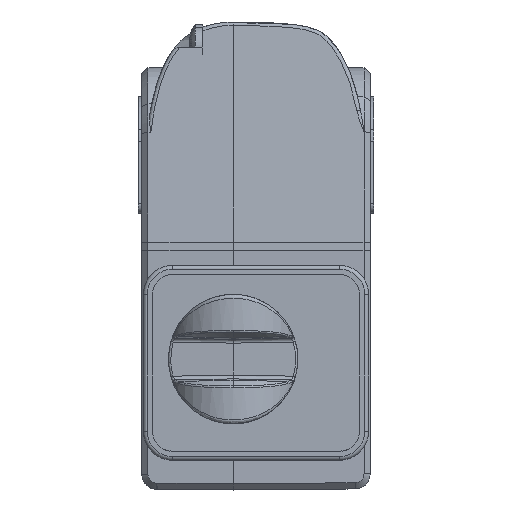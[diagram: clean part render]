
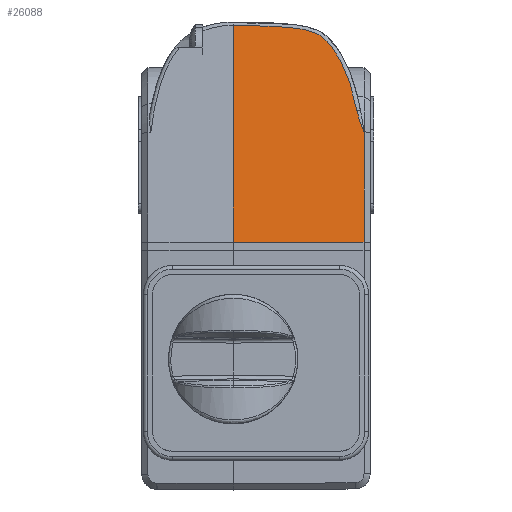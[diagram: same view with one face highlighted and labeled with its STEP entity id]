
A CAD part, left-side view. The second image highlights one B-rep face of the part: STEP entity #26088.
In plain terms, the highlighted planar face has unit normal (-0.994, -0.009, 0.106).
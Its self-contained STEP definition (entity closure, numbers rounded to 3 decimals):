
#470 = CARTESIAN_POINT ( 'NONE',  ( -49.767, -11.677, 22.192 ) ) ;
#571 = CARTESIAN_POINT ( 'NONE',  ( -49.701, -0.953, 23.697 ) ) ;
#863 = CARTESIAN_POINT ( 'NONE',  ( -49.693, -1.905, 23.686 ) ) ;
#1160 = CARTESIAN_POINT ( 'NONE',  ( -52.744, 0., -4.773 ) ) ;
#2674 = AXIS2_PLACEMENT_3D ( 'NONE', #20165, #13217, #19784 ) ;
#2684 = CARTESIAN_POINT ( 'NONE',  ( -49.754, -11.483, 22.328 ) ) ;
#2745 = CARTESIAN_POINT ( 'NONE',  ( -51.001, -17.01, 10.179 ) ) ;
#2784 = CARTESIAN_POINT ( 'NONE',  ( -49.671, -6.663, 23.504 ) ) ;
#2829 = LINE ( 'NONE', #19273, #22110 ) ;
#3068 = CARTESIAN_POINT ( 'NONE',  ( -49.796, -12.044, 21.888 ) ) ;
#3581 = EDGE_CURVE ( 'NONE', #15998, #5245, #22213, .T. ) ;
#4456 = LINE ( 'NONE', #10931, #27221 ) ;
#4561 = PLANE ( 'NONE',  #2674 ) ;
#4850 = CARTESIAN_POINT ( 'NONE',  ( -52.594, -17.192, -4.781 ) ) ;
#5088 = CARTESIAN_POINT ( 'NONE',  ( -50.564, -15.851, 14.37 ) ) ;
#5192 = CARTESIAN_POINT ( 'NONE',  ( -49.723, -10.85, 22.667 ) ) ;
#5245 = VERTEX_POINT ( 'NONE', #4850 ) ;
#6714 = VECTOR ( 'NONE', #23388, 1000. ) ;
#6802 = DIRECTION ( 'NONE',  ( 0.106, 0., 0.994 ) ) ;
#6841 = B_SPLINE_CURVE_WITH_KNOTS ( 'NONE', 3,
 ( #11588, #2745, #11383, #13610, #13989, #27026 ),
 .UNSPECIFIED., .F., .F.,
 ( 4, 2, 4 ),
 ( 0., 0.001, 0.003 ),
 .UNSPECIFIED. ) ;
#6914 = ORIENTED_EDGE ( 'NONE', *, *, #16325, .T. ) ;
#7114 = CARTESIAN_POINT ( 'NONE',  ( -49.681, -3.81, 23.647 ) ) ;
#7398 = CARTESIAN_POINT ( 'NONE',  ( -49.675, -4.762, 23.619 ) ) ;
#7482 = CARTESIAN_POINT ( 'NONE',  ( -50.758, -16.244, 12.514 ) ) ;
#8057 = CARTESIAN_POINT ( 'NONE',  ( -50.758, -16.244, 12.514 ) ) ;
#8189 = CARTESIAN_POINT ( 'NONE',  ( -51.048, -17.192, 9.722 ) ) ;
#8220 = B_SPLINE_CURVE_WITH_KNOTS ( 'NONE', 3,
 ( #8189, #14925, #21575, #27867 ),
 .UNSPECIFIED., .F., .F.,
 ( 4, 4 ),
 ( 0., 1. ),
 .UNSPECIFIED. ) ;
#8469 = EDGE_CURVE ( 'NONE', #18833, #26987, #18174, .T. ) ;
#9413 = CARTESIAN_POINT ( 'NONE',  ( -50.661, -16.064, 13.443 ) ) ;
#9507 = CARTESIAN_POINT ( 'NONE',  ( -49.847, -12.542, 21.369 ) ) ;
#9696 = CARTESIAN_POINT ( 'NONE',  ( -49.688, -9.494, 23.114 ) ) ;
#10931 = CARTESIAN_POINT ( 'NONE',  ( -52.651, -17.192, -5.317 ) ) ;
#11383 = CARTESIAN_POINT ( 'NONE',  ( -50.953, -16.827, 10.636 ) ) ;
#11588 = CARTESIAN_POINT ( 'NONE',  ( -51.048, -17.189, 9.72 ) ) ;
#11625 = CARTESIAN_POINT ( 'NONE',  ( -49.672, -7.612, 23.415 ) ) ;
#11721 = CARTESIAN_POINT ( 'NONE',  ( -50.375, -15.336, 16.187 ) ) ;
#12578 = EDGE_CURVE ( 'NONE', #26987, #15998, #2829, .T. ) ;
#13217 = DIRECTION ( 'NONE',  ( -0.994, -0.009, 0.106 ) ) ;
#13610 = CARTESIAN_POINT ( 'NONE',  ( -50.858, -16.492, 11.562 ) ) ;
#13654 = CARTESIAN_POINT ( 'NONE',  ( -49.813, -12.218, 21.719 ) ) ;
#13844 = CARTESIAN_POINT ( 'NONE',  ( -49.674, -8.088, 23.359 ) ) ;
#13989 = CARTESIAN_POINT ( 'NONE',  ( -50.809, -16.338, 12.031 ) ) ;
#14023 = CARTESIAN_POINT ( 'NONE',  ( -49.732, -11.07, 22.565 ) ) ;
#14925 = CARTESIAN_POINT ( 'NONE',  ( -51.048, -17.191, 9.721 ) ) ;
#15878 = CARTESIAN_POINT ( 'NONE',  ( -49.865, -12.695, 21.187 ) ) ;
#15975 = CARTESIAN_POINT ( 'NONE',  ( -50.105, -14.261, 18.806 ) ) ;
#15998 = VERTEX_POINT ( 'NONE', #18773 ) ;
#16075 = CARTESIAN_POINT ( 'NONE',  ( -49.902, -12.992, 20.816 ) ) ;
#16325 = EDGE_CURVE ( 'NONE', #24585, #18833, #6841, .T. ) ;
#16852 = CARTESIAN_POINT ( 'NONE',  ( -49.708, 0., 23.705 ) ) ;
#16853 = ORIENTED_EDGE ( 'NONE', *, *, #3581, .T. ) ;
#18098 = CARTESIAN_POINT ( 'NONE',  ( -49.703, -10.179, 22.918 ) ) ;
#18174 = B_SPLINE_CURVE_WITH_KNOTS ( 'NONE', 3,
 ( #7482, #9413, #5088, #11721, #27060, #18487, #15975, #22710, #20507, #22919, #16075, #15878, #9507, #13654, #3068, #470, #2684, #14023, #5192, #26967, #18098, #9696, #20405, #13844, #11625, #2784, #24940, #7398, #7114, #863, #571, #24842 ),
 .UNSPECIFIED., .F., .F.,
 ( 4, 2, 2, 2, 2, 2, 2, 2, 2, 2, 2, 2, 2, 2, 2, 4 ),
 ( 0.008, 0.011, 0.014, 0.015, 0.016, 0.017, 0.018, 0.018, 0.019, 0.02, 0.021, 0.022, 0.023, 0.025, 0.028, 0.031 ),
 .UNSPECIFIED. ) ;
#18487 = CARTESIAN_POINT ( 'NONE',  ( -50.149, -14.468, 18.379 ) ) ;
#18773 = CARTESIAN_POINT ( 'NONE',  ( -52.744, 0., -4.773 ) ) ;
#18833 = VERTEX_POINT ( 'NONE', #8057 ) ;
#19001 = DIRECTION ( 'NONE',  ( -0.106, 0., -0.994 ) ) ;
#19273 = CARTESIAN_POINT ( 'NONE',  ( -52.8, 0., -5.302 ) ) ;
#19784 = DIRECTION ( 'NONE',  ( 0.106, 0., 0.994 ) ) ;
#20165 = CARTESIAN_POINT ( 'NONE',  ( -52.8, 0., -5.302 ) ) ;
#20405 = CARTESIAN_POINT ( 'NONE',  ( -49.682, -9.028, 23.208 ) ) ;
#20428 = ORIENTED_EDGE ( 'NONE', *, *, #26412, .T. ) ;
#20507 = CARTESIAN_POINT ( 'NONE',  ( -49.979, -13.547, 20.046 ) ) ;
#21575 = CARTESIAN_POINT ( 'NONE',  ( -51.048, -17.19, 9.721 ) ) ;
#22110 = VECTOR ( 'NONE', #19001, 1000. ) ;
#22213 = LINE ( 'NONE', #1160, #6714 ) ;
#22223 = FACE_OUTER_BOUND ( 'NONE', #25103, .T. ) ;
#22710 = CARTESIAN_POINT ( 'NONE',  ( -50.02, -13.799, 19.642 ) ) ;
#22805 = ORIENTED_EDGE ( 'NONE', *, *, #23409, .T. ) ;
#22919 = CARTESIAN_POINT ( 'NONE',  ( -49.921, -13.135, 20.627 ) ) ;
#23388 = DIRECTION ( 'NONE',  ( 0.009, -1., 0. ) ) ;
#23409 = EDGE_CURVE ( 'NONE', #5245, #28334, #4456, .T. ) ;
#24585 = VERTEX_POINT ( 'NONE', #28246 ) ;
#24842 = CARTESIAN_POINT ( 'NONE',  ( -49.708, 0., 23.705 ) ) ;
#24854 = ORIENTED_EDGE ( 'NONE', *, *, #8469, .T. ) ;
#24940 = CARTESIAN_POINT ( 'NONE',  ( -49.672, -6.188, 23.538 ) ) ;
#25103 = EDGE_LOOP ( 'NONE', ( #22805, #20428, #6914, #24854, #27955, #16853 ) ) ;
#26088 = ADVANCED_FACE ( 'NONE', ( #22223 ), #4561, .T. ) ;
#26412 = EDGE_CURVE ( 'NONE', #28334, #24585, #8220, .T. ) ;
#26967 = CARTESIAN_POINT ( 'NONE',  ( -49.709, -10.405, 22.844 ) ) ;
#26987 = VERTEX_POINT ( 'NONE', #16852 ) ;
#27026 = CARTESIAN_POINT ( 'NONE',  ( -50.758, -16.244, 12.514 ) ) ;
#27060 = CARTESIAN_POINT ( 'NONE',  ( -50.282, -15.033, 17.079 ) ) ;
#27221 = VECTOR ( 'NONE', #6802, 1000. ) ;
#27494 = CARTESIAN_POINT ( 'NONE',  ( -51.048, -17.192, 9.722 ) ) ;
#27867 = CARTESIAN_POINT ( 'NONE',  ( -51.048, -17.189, 9.72 ) ) ;
#27955 = ORIENTED_EDGE ( 'NONE', *, *, #12578, .T. ) ;
#28246 = CARTESIAN_POINT ( 'NONE',  ( -51.048, -17.189, 9.72 ) ) ;
#28334 = VERTEX_POINT ( 'NONE', #27494 ) ;
